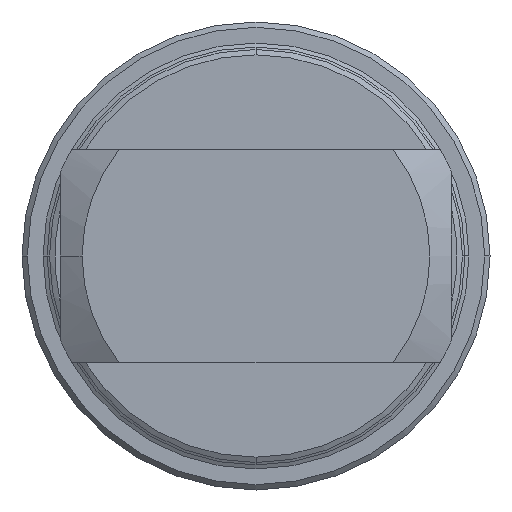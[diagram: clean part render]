
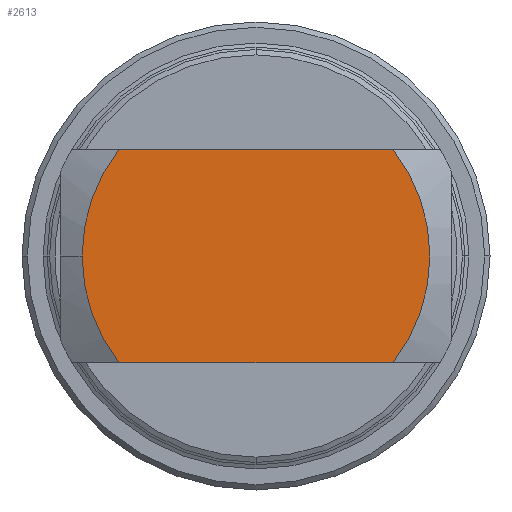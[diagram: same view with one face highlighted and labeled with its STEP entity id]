
A CAD part, front view. The second image highlights one B-rep face of the part: STEP entity #2613.
In plain terms, the highlighted planar face has unit normal (0, -1, 0).
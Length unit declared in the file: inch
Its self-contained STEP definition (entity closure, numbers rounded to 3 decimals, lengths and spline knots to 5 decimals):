
#30 = EDGE_CURVE ( 'NONE', #1257, #675, #6319, .T. ) ;
#36 = EDGE_CURVE ( 'NONE', #676, #1211, #213, .T. ) ;
#37 = EDGE_CURVE ( 'NONE', #1212, #1211, #6335, .T. ) ;
#38 = EDGE_CURVE ( 'NONE', #1257, #1212, #218, .T. ) ;
#191 = CARTESIAN_POINT ( 'NONE',  ( 0., -1.146, 0. ) ) ;
#192 = DIRECTION ( 'NONE',  ( 0., -1., 0. ) ) ;
#193 = DIRECTION ( 'NONE',  ( -1., 0., 0. ) ) ;
#211 = CARTESIAN_POINT ( 'NONE',  ( -0.96995, -1.146, 0.5 ) ) ;
#212 = CARTESIAN_POINT ( 'NONE',  ( -0.96995, -1.146, -0.5 ) ) ;
#213 = LINE ( 'NONE', #212, #6341 ) ;
#217 = DIRECTION ( 'NONE',  ( 1., 0., 0. ) ) ;
#218 = LINE ( 'NONE', #211, #6426 ) ;
#219 = CARTESIAN_POINT ( 'NONE',  ( 0., -1.146, 0. ) ) ;
#220 = DIRECTION ( 'NONE',  ( 0., 1., 0. ) ) ;
#221 = DIRECTION ( 'NONE',  ( -1., 0., 0. ) ) ;
#222 = DIRECTION ( 'NONE',  ( 1., 0., 0. ) ) ;
#584 = CARTESIAN_POINT ( 'NONE',  ( -0.8125, -1.146, 0. ) ) ;
#585 = CARTESIAN_POINT ( 'NONE',  ( -0.64043, -1.146, -0.5 ) ) ;
#675 = VERTEX_POINT ( 'NONE', #584 ) ;
#676 = VERTEX_POINT ( 'NONE', #585 ) ;
#1056 = EDGE_LOOP ( 'NONE', ( #1602, #1603, #1604, #1344, #1341 ) ) ;
#1211 = VERTEX_POINT ( 'NONE', #7955 ) ;
#1212 = VERTEX_POINT ( 'NONE', #7956 ) ;
#1257 = VERTEX_POINT ( 'NONE', #7998 ) ;
#1341 = ORIENTED_EDGE ( 'NONE', *, *, #38, .F. ) ;
#1344 = ORIENTED_EDGE ( 'NONE', *, *, #37, .F. ) ;
#1602 = ORIENTED_EDGE ( 'NONE', *, *, #30, .T. ) ;
#1603 = ORIENTED_EDGE ( 'NONE', *, *, #5832, .T. ) ;
#1604 = ORIENTED_EDGE ( 'NONE', *, *, #36, .T. ) ;
#2613 = ADVANCED_FACE ( 'NONE', ( #3705 ), #3706, .T. ) ;
#3703 = CARTESIAN_POINT ( 'NONE',  ( 0., -1.146, 0. ) ) ;
#3705 = FACE_OUTER_BOUND ( 'NONE', #1056, .T. ) ;
#3706 = PLANE ( 'NONE',  #6472 ) ;
#3709 = DIRECTION ( 'NONE',  ( 0., -1., 0. ) ) ;
#3710 = DIRECTION ( 'NONE',  ( 0., 0., -1. ) ) ;
#4269 = CARTESIAN_POINT ( 'NONE',  ( 0., -1.146, 0. ) ) ;
#4270 = DIRECTION ( 'NONE',  ( 0., -1., 0. ) ) ;
#4271 = DIRECTION ( 'NONE',  ( -1., 0., 0. ) ) ;
#5832 = EDGE_CURVE ( 'NONE', #675, #676, #5996, .T. ) ;
#5992 = AXIS2_PLACEMENT_3D ( 'NONE', #4269, #4270, #4271 ) ;
#5996 = CIRCLE ( 'NONE', #5992, 0.8125 ) ;
#6319 = CIRCLE ( 'NONE', #6416, 0.8125 ) ;
#6335 = CIRCLE ( 'NONE', #6534, 0.8125 ) ;
#6341 = VECTOR ( 'NONE', #217, 39.37008 ) ;
#6416 = AXIS2_PLACEMENT_3D ( 'NONE', #191, #192, #193 ) ;
#6426 = VECTOR ( 'NONE', #222, 39.37008 ) ;
#6472 = AXIS2_PLACEMENT_3D ( 'NONE', #3703, #3709, #3710 ) ;
#6534 = AXIS2_PLACEMENT_3D ( 'NONE', #219, #220, #221 ) ;
#7955 = CARTESIAN_POINT ( 'NONE',  ( 0.64043, -1.146, -0.5 ) ) ;
#7956 = CARTESIAN_POINT ( 'NONE',  ( 0.64043, -1.146, 0.5 ) ) ;
#7998 = CARTESIAN_POINT ( 'NONE',  ( -0.64043, -1.146, 0.5 ) ) ;
